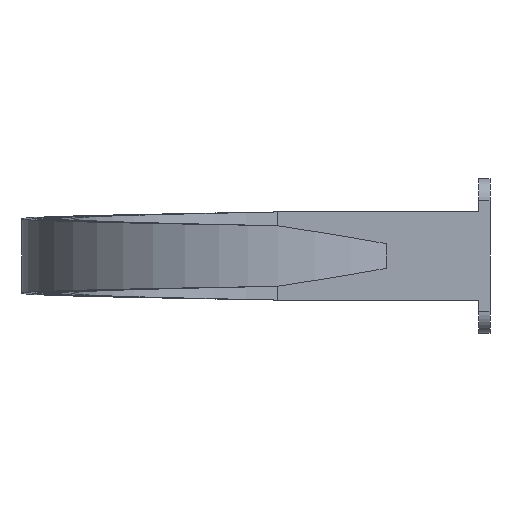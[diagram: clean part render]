
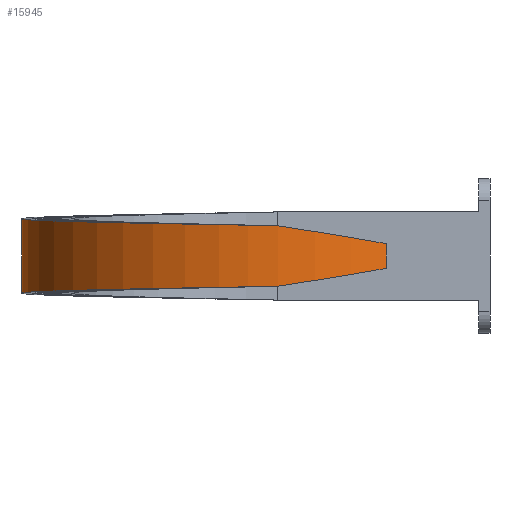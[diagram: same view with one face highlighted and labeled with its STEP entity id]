
A CAD part, left-side view. The second image highlights one B-rep face of the part: STEP entity #15945.
In plain terms, the highlighted cylindrical face has radius 46.5 mm (diameter 93 mm), a partial arc.
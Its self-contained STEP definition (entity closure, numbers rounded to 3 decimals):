
#4549=CARTESIAN_POINT('',(-8.5,38.5,8.));
#4550=CARTESIAN_POINT('',(-8.5,40.935,7.958));
#4551=CARTESIAN_POINT('',(-8.883,45.804,7.875));
#4552=CARTESIAN_POINT('',(-10.594,52.929,7.75));
#4553=CARTESIAN_POINT('',(-13.397,59.698,7.625));
#4554=CARTESIAN_POINT('',(-17.226,65.945,7.5));
#4555=CARTESIAN_POINT('',(-21.984,71.516,7.375));
#4556=CARTESIAN_POINT('',(-27.555,76.274,7.25));
#4557=CARTESIAN_POINT('',(-33.802,80.103,7.125));
#4558=CARTESIAN_POINT('',(-40.571,82.906,7.));
#4559=CARTESIAN_POINT('',(-47.696,84.617,6.875));
#4560=CARTESIAN_POINT('',(-55.,85.192,6.75));
#4561=CARTESIAN_POINT('',(-62.304,84.617,6.625));
#4562=CARTESIAN_POINT('',(-69.429,82.906,6.5));
#4563=CARTESIAN_POINT('',(-76.198,80.103,6.375));
#4564=CARTESIAN_POINT('',(-82.445,76.274,6.25));
#4565=CARTESIAN_POINT('',(-88.016,71.516,6.125));
#4566=CARTESIAN_POINT('',(-92.774,65.945,6.));
#4567=CARTESIAN_POINT('',(-96.603,59.698,5.875));
#4568=CARTESIAN_POINT('',(-99.406,52.929,5.75));
#4569=CARTESIAN_POINT('',(-101.117,45.804,5.625));
#4570=CARTESIAN_POINT('',(-101.5,40.935,5.542));
#4571=CARTESIAN_POINT('',(-101.5,38.5,5.5));
#4573=CARTESIAN_POINT('',(-101.5,38.5,5.5));
#4574=CARTESIAN_POINT('',(-101.5,36.246,5.139));
#4575=CARTESIAN_POINT('',(-101.172,31.737,4.417));
#4576=CARTESIAN_POINT('',(-99.704,25.117,3.333));
#4577=CARTESIAN_POINT('',(-98.096,20.891,2.611));
#4578=CARTESIAN_POINT('',(-97.143,18.848,2.25));
#4580=DIRECTION('',(0.,0.,-1.));
#4581=VECTOR('',#4580,4.5);
#4582=CARTESIAN_POINT('',(-97.143,18.848,2.25));
#4583=LINE('',#4582,#4581);
#4584=CARTESIAN_POINT('',(-101.5,38.5,-5.5));
#4585=CARTESIAN_POINT('',(-101.5,36.246,-5.139));
#4586=CARTESIAN_POINT('',(-101.172,31.737,
-4.417));
#4587=CARTESIAN_POINT('',(-99.704,25.117,
-3.333));
#4588=CARTESIAN_POINT('',(-98.096,20.891,
-2.611));
#4589=CARTESIAN_POINT('',(-97.143,18.848,-2.25));
#4591=CARTESIAN_POINT('',(-8.5,38.5,-8.));
#4592=CARTESIAN_POINT('',(-8.5,40.935,-7.958));
#4593=CARTESIAN_POINT('',(-8.883,45.804,-7.875));
#4594=CARTESIAN_POINT('',(-10.594,52.929,-7.75));
#4595=CARTESIAN_POINT('',(-13.397,59.698,-7.625));
#4596=CARTESIAN_POINT('',(-17.226,65.945,-7.5));
#4597=CARTESIAN_POINT('',(-21.984,71.516,-7.375));
#4598=CARTESIAN_POINT('',(-27.555,76.274,-7.25));
#4599=CARTESIAN_POINT('',(-33.802,80.103,-7.125));
#4600=CARTESIAN_POINT('',(-40.571,82.906,-7.));
#4601=CARTESIAN_POINT('',(-47.696,84.617,-6.875));
#4602=CARTESIAN_POINT('',(-55.,85.192,-6.75));
#4603=CARTESIAN_POINT('',(-62.304,84.617,-6.625));
#4604=CARTESIAN_POINT('',(-69.429,82.906,-6.5));
#4605=CARTESIAN_POINT('',(-76.198,80.103,-6.375));
#4606=CARTESIAN_POINT('',(-82.445,76.274,-6.25));
#4607=CARTESIAN_POINT('',(-88.016,71.516,-6.125));
#4608=CARTESIAN_POINT('',(-92.774,65.945,-6.));
#4609=CARTESIAN_POINT('',(-96.603,59.698,-5.875));
#4610=CARTESIAN_POINT('',(-99.406,52.929,-5.75));
#4611=CARTESIAN_POINT('',(-101.117,45.804,-5.625));
#4612=CARTESIAN_POINT('',(-101.5,40.935,-5.542));
#4613=CARTESIAN_POINT('',(-101.5,38.5,-5.5));
#4615=DIRECTION('',(0.,0.,1.));
#4616=VECTOR('',#4615,16.);
#4617=CARTESIAN_POINT('',(-8.5,38.5,-8.));
#4618=LINE('',#4617,#4616);
#5561=CARTESIAN_POINT('',(-8.5,38.5,8.));
#5563=VERTEX_POINT('',#5561);
#5585=CARTESIAN_POINT('',(-8.5,38.5,-8.));
#5587=VERTEX_POINT('',#5585);
#5639=CARTESIAN_POINT('',(-97.143,18.848,-2.25));
#5641=VERTEX_POINT('',#5639);
#5645=VERTEX_POINT('',#4584);
#5655=CARTESIAN_POINT('',(-97.143,18.848,2.25));
#5657=VERTEX_POINT('',#5655);
#5661=VERTEX_POINT('',#4573);
#15929=CARTESIAN_POINT('',(-55.,38.5,-1.25));
#15930=DIRECTION('',(0.,0.,1.));
#15931=DIRECTION('',(1.,0.,0.));
#15932=AXIS2_PLACEMENT_3D('',#15929,#15930,#15931);
#15933=CYLINDRICAL_SURFACE('',#15932,46.5);
#15934=ORIENTED_EDGE('',*,*,#15897,.T.);
#15935=ORIENTED_EDGE('',*,*,#15923,.T.);
#15936=ORIENTED_EDGE('',*,*,#15093,.T.);
#15938=ORIENTED_EDGE('',*,*,#15937,.F.);
#15940=ORIENTED_EDGE('',*,*,#15939,.F.);
#15942=ORIENTED_EDGE('',*,*,#15941,.T.);
#15943=EDGE_LOOP('',(#15934,#15935,#15936,#15938,#15940,#15942));
#15944=FACE_OUTER_BOUND('',#15943,.F.);
#15945=ADVANCED_FACE('',(#15944),#15933,.T.);
#4572=B_SPLINE_CURVE_WITH_KNOTS('',3,(#4549,#4550,#4551,#4552,#4553,#4554,#4555,
#4556,#4557,#4558,#4559,#4560,#4561,#4562,#4563,#4564,#4565,#4566,#4567,#4568,
#4569,#4570,#4571),.UNSPECIFIED.,.F.,.F.,(4,1,1,1,1,1,1,1,1,1,1,1,1,1,1,1,1,1,1,
1,4),(0.,0.05,0.1,0.15,0.2,0.25,0.3,0.35,0.4,0.45,0.5,
0.55,0.6,0.65,0.7,0.75,0.8,0.85,0.9,0.95,1.),.UNSPECIFIED.);
#4579=B_SPLINE_CURVE_WITH_KNOTS('',3,(#4573,#4574,#4575,#4576,#4577,#4578),
.UNSPECIFIED.,.F.,.F.,(4,1,1,4),(0.,0.333,0.667,1.),
.UNSPECIFIED.);
#4590=B_SPLINE_CURVE_WITH_KNOTS('',3,(#4584,#4585,#4586,#4587,#4588,#4589),
.UNSPECIFIED.,.F.,.F.,(4,1,1,4),(0.,0.333,0.667,1.),
.UNSPECIFIED.);
#4614=B_SPLINE_CURVE_WITH_KNOTS('',3,(#4591,#4592,#4593,#4594,#4595,#4596,#4597,
#4598,#4599,#4600,#4601,#4602,#4603,#4604,#4605,#4606,#4607,#4608,#4609,#4610,
#4611,#4612,#4613),.UNSPECIFIED.,.F.,.F.,(4,1,1,1,1,1,1,1,1,1,1,1,1,1,1,1,1,1,1,
1,4),(0.,0.05,0.1,0.15,0.2,0.25,0.3,0.35,0.4,0.45,0.5,
0.55,0.6,0.65,0.7,0.75,0.8,0.85,0.9,0.95,1.),.UNSPECIFIED.);
#15093=EDGE_CURVE('',#5657,#5641,#4583,.T.);
#15897=EDGE_CURVE('',#5563,#5661,#4572,.T.);
#15923=EDGE_CURVE('',#5661,#5657,#4579,.T.);
#15937=EDGE_CURVE('',#5645,#5641,#4590,.T.);
#15939=EDGE_CURVE('',#5587,#5645,#4614,.T.);
#15941=EDGE_CURVE('',#5587,#5563,#4618,.T.);
